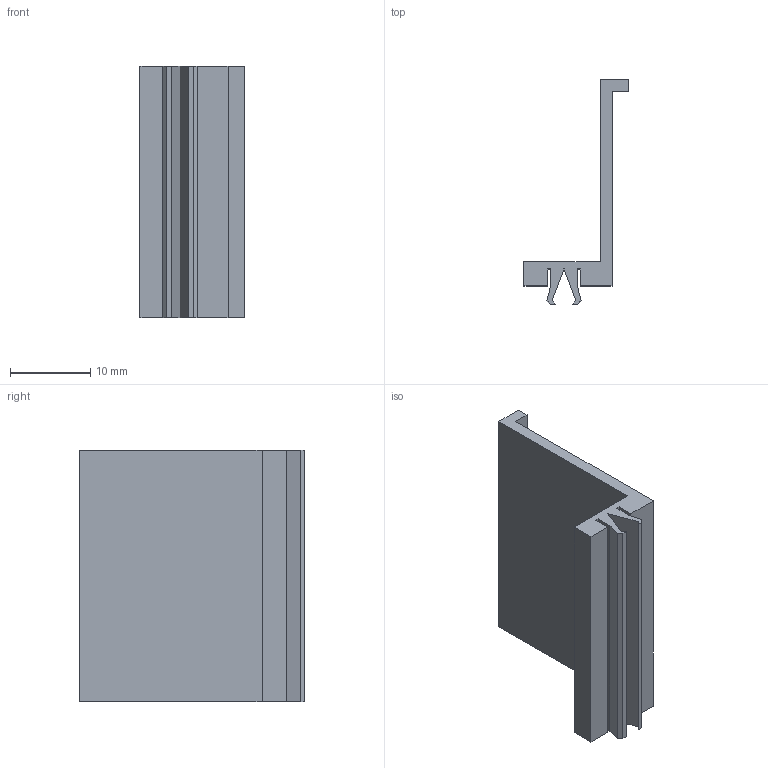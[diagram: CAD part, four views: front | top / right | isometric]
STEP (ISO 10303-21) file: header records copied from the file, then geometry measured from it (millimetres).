
FILE_DESCRIPTION(/* description */ (''),/* implementation_level */ '2;1');
FILE_NAME(/* name */ 'C:/Users/priba/Downloads/batt-lid-d-holder.step',/* time_stamp */ '2020-09-13T09:01:15+02:00',/* author */ (''),/* organization */ (''),/* preprocessor_version */ 'ST-DEVELOPER v18.1',/* originating_system */ 'Autodesk Translation Framework v9.3.0.1241',/* authorisation */ '');
FILE_SCHEMA (('AUTOMOTIVE_DESIGN { 1 0 10303 214 3 1 1 }'));
Length unit declared in the file: millimetre
Products named in the file (1): batt-lid-d-holder
Bounding box: 13 x 28.11 x 31.4 mm (x, y, z)
Volume: 2204 mm3; surface area: 3245.3 mm2
Topology: 1 solids, 1 shells, 28 faces, 78 edges, 52 vertices
Faces by surface type: plane 28
Entity records: 904 total; most frequent: CARTESIAN_POINT 159, ORIENTED_EDGE 156, DIRECTION 136, LINE 78, VECTOR 78, EDGE_CURVE 78, VERTEX_POINT 52, AXIS2_PLACEMENT_3D 29
